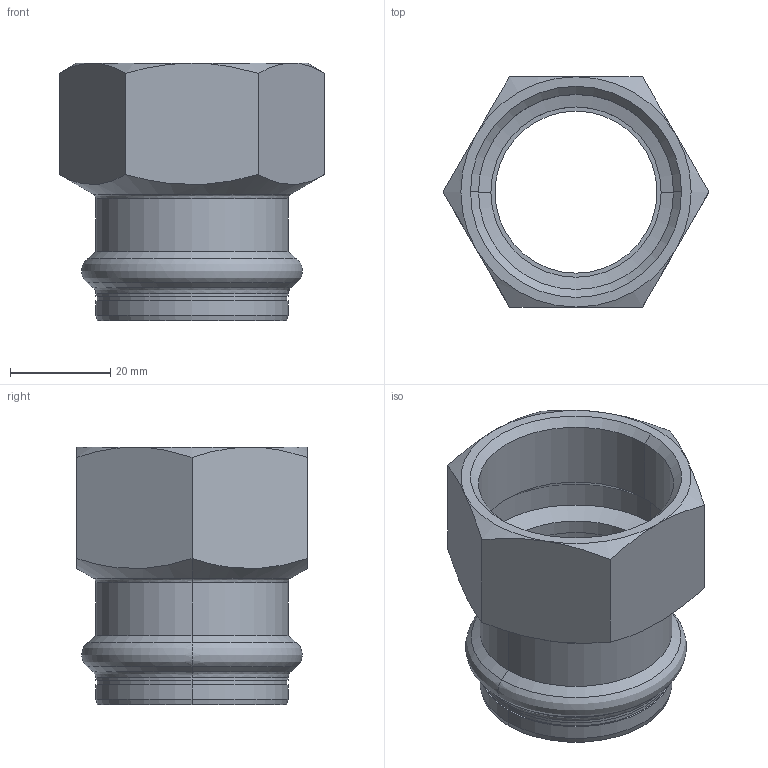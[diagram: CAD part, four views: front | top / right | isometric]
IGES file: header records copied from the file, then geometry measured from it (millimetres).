
Start section: Elysium IGES Interface
Global section: file name: F:\3d modellen sudo\S-Pr VP\SP6270GV\6270GVW35114.igs; native system: CoCreate Modeling 17.00A  17-Jun-2010; preprocessor: CoCreate IGES_3D V2.2; author: Unknown; organization: Unknown; date: 20130128.124430; units: millimetre
Bounding box: 53.12 x 46 x 51.5 mm (x, y, z)
Volume: 21935.6 mm3; surface area: 15389.6 mm2
Topology: 1 solids, 1 shells, 62 faces, 132 edges, 74 vertices
Faces by surface type: bspline 62
